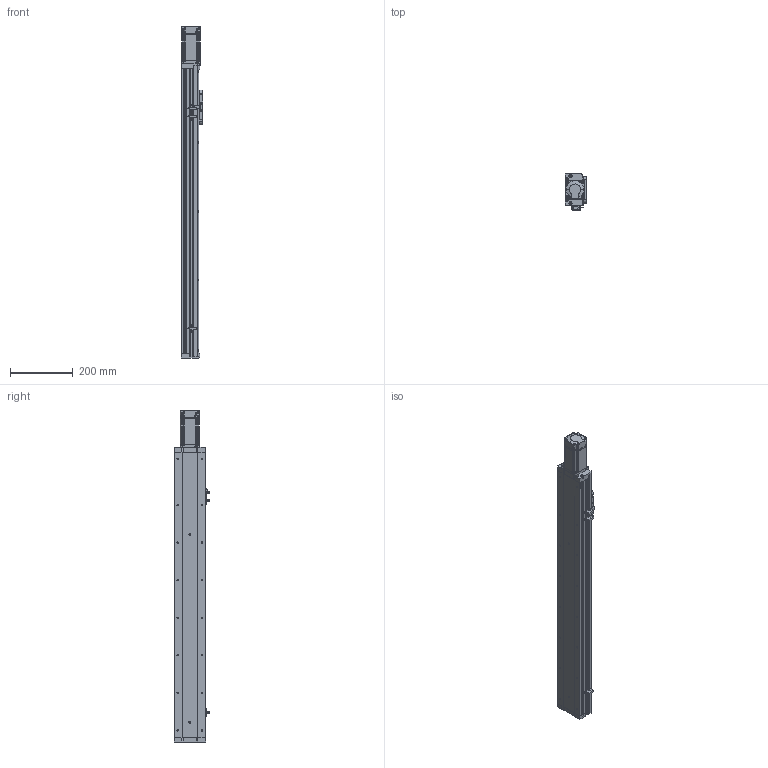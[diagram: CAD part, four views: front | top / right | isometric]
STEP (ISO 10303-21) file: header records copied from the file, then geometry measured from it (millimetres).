
FILE_DESCRIPTION (( 'STEP AP214' ), '1' );
FILE_NAME ('KSD100S-S700-MN-CR.STEP', '2019-09-02T09:30:28', ( '微软用户' ), ( '微软中国' ), 'SwSTEP 2.0', 'SolidWorks 2014', '' );
FILE_SCHEMA (( 'AUTOMOTIVE_DESIGN' ));
Length unit declared in the file: millimetre
Products named in the file (12): 100宽底板全封闭700行程不带电机座; KSD100S-S700-MN-CR; MHMD042G1CA_2_03; U倰嫖萇EEㄜSX672; 感应片100宽全封闭; 100宽马达安装板全封闭不带电机座; 100宽端板全封闭; 100宽滚珠螺姆安装板1防护罩; 100宽滚珠螺姆安装板1; 100宽盖板压板不带电机座; 100宽盖板700行程不带电机座; 100宽侧板700行程不带电机座
Assembly tree (15 placements, depth 2):
  KSD100S-S700-MN-CR
    100宽底板全封闭700行程不带电机座
    100宽侧板700行程不带电机座  x2
    100宽盖板700行程不带电机座
    100宽盖板压板不带电机座  x2
    100宽滚珠螺姆安装板1
    100宽滚珠螺姆安装板1防护罩
    100宽端板全封闭
    100宽马达安装板全封闭不带电机座
    感应片100宽全封闭
    U倰嫖萇EEㄜSX672  x3
    MHMD042G1CA_2_03
Bounding box: 70 x 113.7 x 1060.5 mm (x, y, z)
Volume: 1856285.5 mm3; surface area: 819201.6 mm2
Topology: 14 solids, 15 shells, 1536 faces, 4304 edges, 2744 vertices
Faces by surface type: plane 656, cylinder 641, cone 221, bspline 18
Entity records: 52428 total; most frequent: CARTESIAN_POINT 8183, DIRECTION 7183, ORIENTED_EDGE 6680, EDGE_CURVE 3412, AXIS2_PLACEMENT_3D 2552, VERTEX_POINT 2262, VECTOR 2079, LINE 2079
